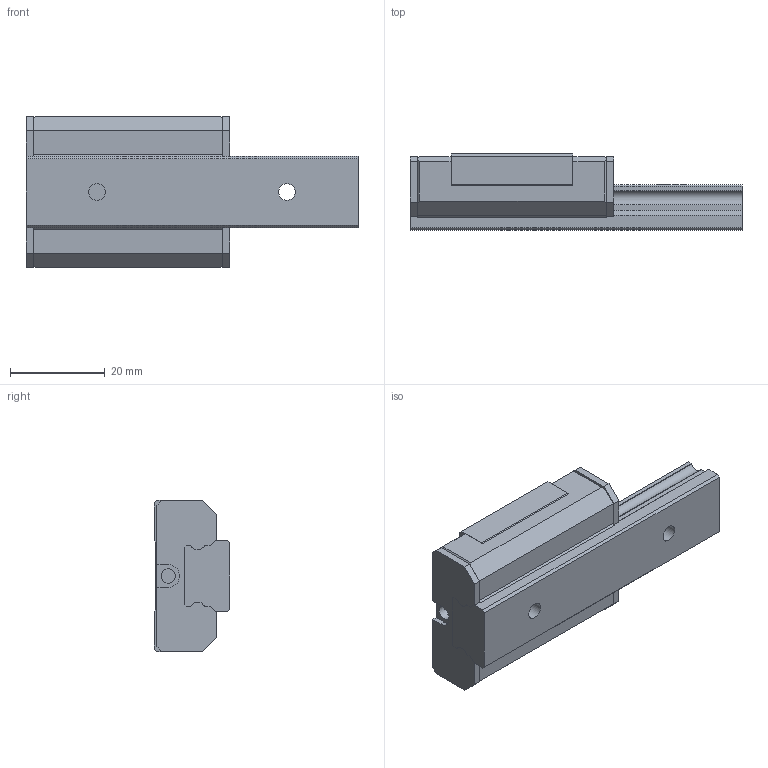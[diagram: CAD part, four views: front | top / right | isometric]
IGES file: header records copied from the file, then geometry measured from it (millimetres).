
Start section: Data from Parasolid IGES Translator 26.0.171, Copyright(c) 2006 Siemens PLM Software. All Rights Reserved.
Global section: file name: SRS15MSS-70LM_G15_0_Without_grease_nipple_0_0_0_0_1.igs; native system: By Siemens PLM Incorporated; preprocessor: XPlus GENERIC/IGES 26.0.171; author: Noname; organization: Noname; date: 20240517.091317; units: millimetre
Bounding box: 70 x 16 x 32 mm (x, y, z)
Surface area: 9007.9 mm2 (no closed solid volume)
Topology: 0 solids, 0 shells, 136 faces, 732 edges, 712 vertices
Faces by surface type: extrusion 100, revolution 36
